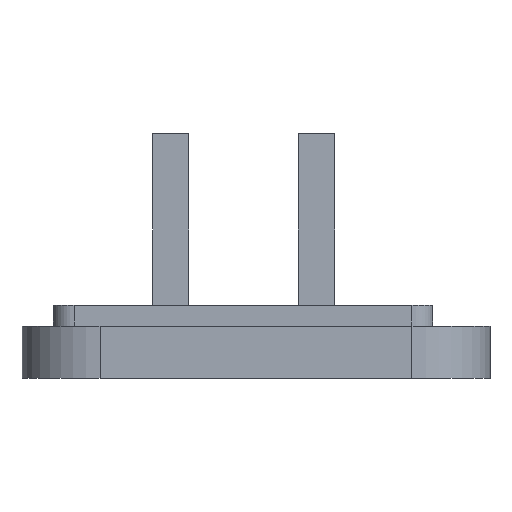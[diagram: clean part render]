
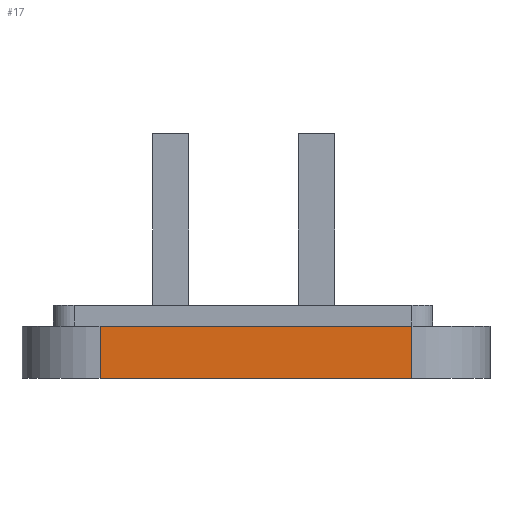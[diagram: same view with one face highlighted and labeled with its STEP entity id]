
A CAD part, left-side view. The second image highlights one B-rep face of the part: STEP entity #17.
In plain terms, the highlighted planar face has unit normal (-1, 0, 0).
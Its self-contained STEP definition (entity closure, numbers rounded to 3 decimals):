
#17 = ADVANCED_FACE('',(#18),#32,.F.);
#18 = FACE_BOUND('',#19,.F.);
#19 = EDGE_LOOP('',(#20,#55,#83,#111));
#20 = ORIENTED_EDGE('',*,*,#21,.F.);
#21 = EDGE_CURVE('',#22,#24,#26,.T.);
#22 = VERTEX_POINT('',#23);
#23 = CARTESIAN_POINT('',(-22.,-23.,-12.));
#24 = VERTEX_POINT('',#25);
#25 = CARTESIAN_POINT('',(-22.,-11.,-12.));
#26 = SURFACE_CURVE('',#27,(#31,#43),.PCURVE_S1.);
#27 = LINE('',#28,#29);
#28 = CARTESIAN_POINT('',(-22.,-26.,-12.));
#29 = VECTOR('',#30,1.);
#30 = DIRECTION('',(0.,1.,0.));
#31 = PCURVE('',#32,#37);
#32 = PLANE('',#33);
#33 = AXIS2_PLACEMENT_3D('',#34,#35,#36);
#34 = CARTESIAN_POINT('',(-22.,-26.,-14.));
#35 = DIRECTION('',(1.,0.,0.));
#36 = DIRECTION('',(0.,0.,1.));
#37 = DEFINITIONAL_REPRESENTATION('',(#38),#42);
#38 = LINE('',#39,#40);
#39 = CARTESIAN_POINT('',(2.,0.));
#40 = VECTOR('',#41,1.);
#41 = DIRECTION('',(0.,-1.));
#42 = ( GEOMETRIC_REPRESENTATION_CONTEXT(2) 
PARAMETRIC_REPRESENTATION_CONTEXT() REPRESENTATION_CONTEXT('2D SPACE',''
  ) );
#43 = PCURVE('',#44,#49);
#44 = PLANE('',#45);
#45 = AXIS2_PLACEMENT_3D('',#46,#47,#48);
#46 = CARTESIAN_POINT('',(-22.,-26.,-12.));
#47 = DIRECTION('',(0.,0.,1.));
#48 = DIRECTION('',(1.,0.,0.));
#49 = DEFINITIONAL_REPRESENTATION('',(#50),#54);
#50 = LINE('',#51,#52);
#51 = CARTESIAN_POINT('',(0.,0.));
#52 = VECTOR('',#53,1.);
#53 = DIRECTION('',(0.,1.));
#54 = ( GEOMETRIC_REPRESENTATION_CONTEXT(2) 
PARAMETRIC_REPRESENTATION_CONTEXT() REPRESENTATION_CONTEXT('2D SPACE',''
  ) );
#55 = ORIENTED_EDGE('',*,*,#56,.F.);
#56 = EDGE_CURVE('',#57,#22,#59,.T.);
#57 = VERTEX_POINT('',#58);
#58 = CARTESIAN_POINT('',(-22.,-23.,-14.));
#59 = SURFACE_CURVE('',#60,(#64,#71),.PCURVE_S1.);
#60 = LINE('',#61,#62);
#61 = CARTESIAN_POINT('',(-22.,-23.,-14.));
#62 = VECTOR('',#63,1.);
#63 = DIRECTION('',(0.,0.,1.));
#64 = PCURVE('',#32,#65);
#65 = DEFINITIONAL_REPRESENTATION('',(#66),#70);
#66 = LINE('',#67,#68);
#67 = CARTESIAN_POINT('',(0.,-3.));
#68 = VECTOR('',#69,1.);
#69 = DIRECTION('',(1.,0.));
#70 = ( GEOMETRIC_REPRESENTATION_CONTEXT(2) 
PARAMETRIC_REPRESENTATION_CONTEXT() REPRESENTATION_CONTEXT('2D SPACE',''
  ) );
#71 = PCURVE('',#72,#77);
#72 = CYLINDRICAL_SURFACE('',#73,3.);
#73 = AXIS2_PLACEMENT_3D('',#74,#75,#76);
#74 = CARTESIAN_POINT('',(-19.,-23.,-14.));
#75 = DIRECTION('',(0.,0.,1.));
#76 = DIRECTION('',(-1.,-0.,0.));
#77 = DEFINITIONAL_REPRESENTATION('',(#78),#82);
#78 = LINE('',#79,#80);
#79 = CARTESIAN_POINT('',(0.,0.));
#80 = VECTOR('',#81,1.);
#81 = DIRECTION('',(0.,1.));
#82 = ( GEOMETRIC_REPRESENTATION_CONTEXT(2) 
PARAMETRIC_REPRESENTATION_CONTEXT() REPRESENTATION_CONTEXT('2D SPACE',''
  ) );
#83 = ORIENTED_EDGE('',*,*,#84,.T.);
#84 = EDGE_CURVE('',#57,#85,#87,.T.);
#85 = VERTEX_POINT('',#86);
#86 = CARTESIAN_POINT('',(-22.,-11.,-14.));
#87 = SURFACE_CURVE('',#88,(#92,#99),.PCURVE_S1.);
#88 = LINE('',#89,#90);
#89 = CARTESIAN_POINT('',(-22.,-26.,-14.));
#90 = VECTOR('',#91,1.);
#91 = DIRECTION('',(0.,1.,0.));
#92 = PCURVE('',#32,#93);
#93 = DEFINITIONAL_REPRESENTATION('',(#94),#98);
#94 = LINE('',#95,#96);
#95 = CARTESIAN_POINT('',(0.,0.));
#96 = VECTOR('',#97,1.);
#97 = DIRECTION('',(0.,-1.));
#98 = ( GEOMETRIC_REPRESENTATION_CONTEXT(2) 
PARAMETRIC_REPRESENTATION_CONTEXT() REPRESENTATION_CONTEXT('2D SPACE',''
  ) );
#99 = PCURVE('',#100,#105);
#100 = PLANE('',#101);
#101 = AXIS2_PLACEMENT_3D('',#102,#103,#104);
#102 = CARTESIAN_POINT('',(-22.,-26.,-14.));
#103 = DIRECTION('',(0.,0.,1.));
#104 = DIRECTION('',(1.,0.,0.));
#105 = DEFINITIONAL_REPRESENTATION('',(#106),#110);
#106 = LINE('',#107,#108);
#107 = CARTESIAN_POINT('',(0.,0.));
#108 = VECTOR('',#109,1.);
#109 = DIRECTION('',(0.,1.));
#110 = ( GEOMETRIC_REPRESENTATION_CONTEXT(2) 
PARAMETRIC_REPRESENTATION_CONTEXT() REPRESENTATION_CONTEXT('2D SPACE',''
  ) );
#111 = ORIENTED_EDGE('',*,*,#112,.T.);
#112 = EDGE_CURVE('',#85,#24,#113,.T.);
#113 = SURFACE_CURVE('',#114,(#118,#125),.PCURVE_S1.);
#114 = LINE('',#115,#116);
#115 = CARTESIAN_POINT('',(-22.,-11.,-14.));
#116 = VECTOR('',#117,1.);
#117 = DIRECTION('',(0.,0.,1.));
#118 = PCURVE('',#32,#119);
#119 = DEFINITIONAL_REPRESENTATION('',(#120),#124);
#120 = LINE('',#121,#122);
#121 = CARTESIAN_POINT('',(0.,-15.));
#122 = VECTOR('',#123,1.);
#123 = DIRECTION('',(1.,0.));
#124 = ( GEOMETRIC_REPRESENTATION_CONTEXT(2) 
PARAMETRIC_REPRESENTATION_CONTEXT() REPRESENTATION_CONTEXT('2D SPACE',''
  ) );
#125 = PCURVE('',#126,#131);
#126 = CYLINDRICAL_SURFACE('',#127,3.);
#127 = AXIS2_PLACEMENT_3D('',#128,#129,#130);
#128 = CARTESIAN_POINT('',(-19.,-11.,-14.));
#129 = DIRECTION('',(0.,0.,1.));
#130 = DIRECTION('',(-1.,-0.,0.));
#131 = DEFINITIONAL_REPRESENTATION('',(#132),#136);
#132 = LINE('',#133,#134);
#133 = CARTESIAN_POINT('',(-0.,0.));
#134 = VECTOR('',#135,1.);
#135 = DIRECTION('',(-0.,1.));
#136 = ( GEOMETRIC_REPRESENTATION_CONTEXT(2) 
PARAMETRIC_REPRESENTATION_CONTEXT() REPRESENTATION_CONTEXT('2D SPACE',''
  ) );
